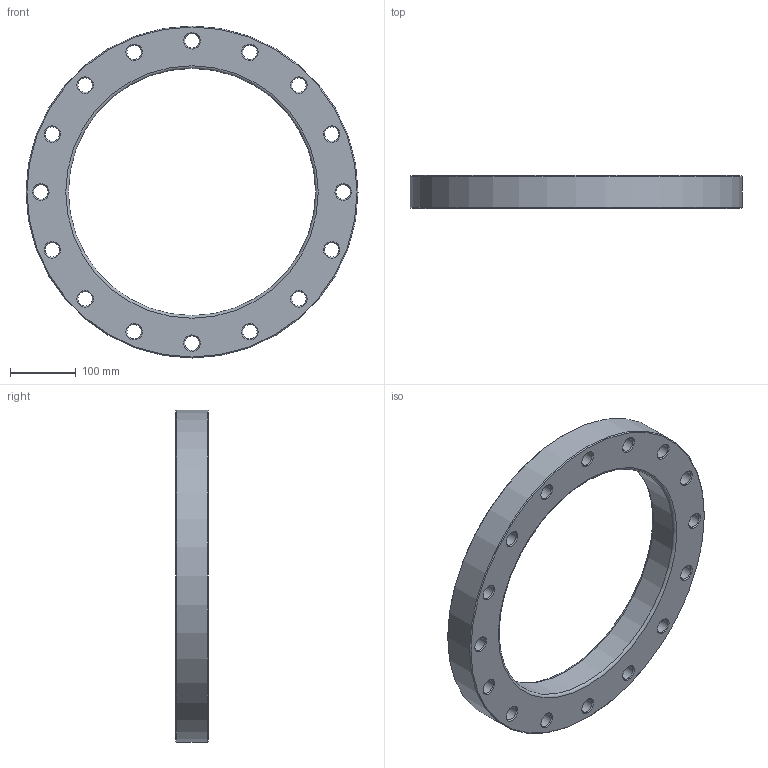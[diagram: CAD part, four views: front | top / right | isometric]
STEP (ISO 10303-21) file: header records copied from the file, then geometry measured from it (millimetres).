
FILE_DESCRIPTION(/* description */ ('Unknown'),/* implementation_level */ '2;1');
FILE_NAME(/* name */ 'FR355B',/* time_stamp */ '2022-07-06T10:23:21+02:00',/* author */ ('Unknown'),/* organization */ ('Unknown'),/* preprocessor_version */ 'ST-DEVELOPER v18.102',/* originating_system */ 'Solid Edge',/* authorisation */ 'Unknown');
FILE_SCHEMA (('AUTOMOTIVE_DESIGN {1 0 10303 214 3 1 1}'));
Length unit declared in the file: millimetre
Products named in the file (1): FR355B
Bounding box: 505 x 50 x 505 mm (x, y, z)
Volume: 4144565.4 mm3; surface area: 351349.1 mm2
Topology: 1 solids, 1 shells, 56 faces, 174 edges, 120 vertices
Faces by surface type: cone 34, cylinder 18, plane 2, torus 2
Full cylindrical faces by diameter (mm): 22 x16, 376 x1, 505 x1
Entity records: 1382 total; most frequent: DIRECTION 258, CARTESIAN_POINT 201, ORIENTED_EDGE 144, EDGE_LOOP 144, FACE_BOUND 144, AXIS2_PLACEMENT_3D 129, EDGE_CURVE 72, VERTEX_POINT 72
